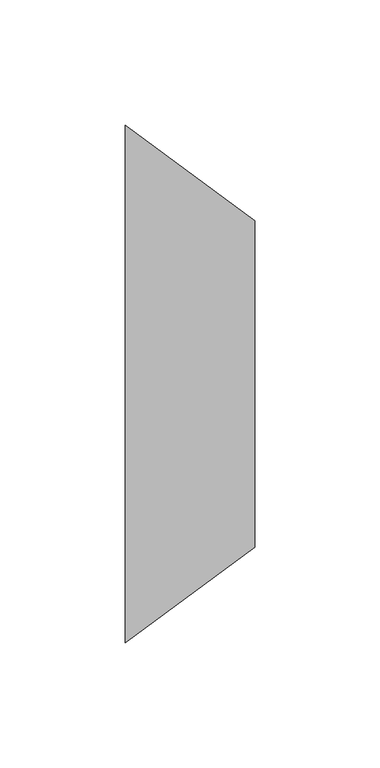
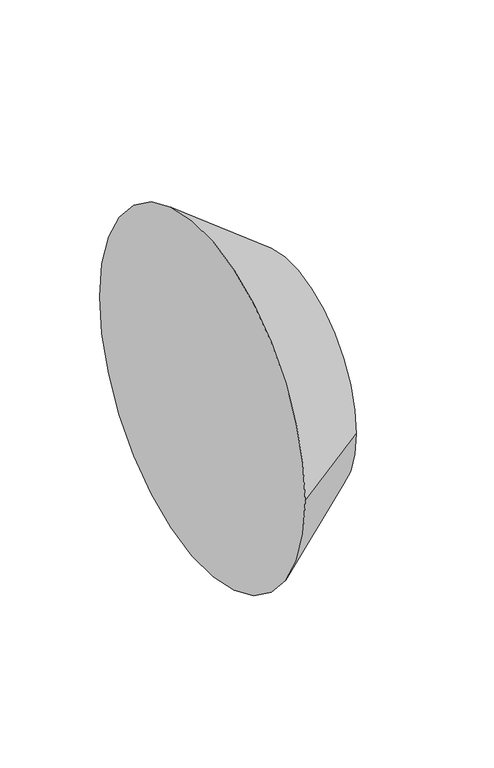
"""IFC4 building model written with IfcOpenShell, lengths in millimetres: pipe fitting geometry, M_Transición - Genérica : Estándar."""

from ifc_helpers import new_model, si_unit, frame, origin, place, context, project, spatial, polyline, circle_curve, source, transform, mapped, element, save
from ifc_brep_helpers import plane_surface, revolved_surface, advanced_brep


def pipe_fitting_73698d31(model_context):
    return source(origin(), model_context, "Body", "AdvancedBrep", [
        advanced_brep(
        [(51.59375, -65.0875, 0.0), (51.59375, 65.0875, 0.0), (0.0, -103.1875, 0.0), (0.0, 103.1875, 0.0)],
        [
            (0, 1, circle_curve(frame((51.59375, 0.0, 0.0), z_axis=(1.0, 0.0, 0.0), x_axis=(0.0, -1.0, 0.0)), 65.0875)),
            (1, 0, circle_curve(frame((51.59375, 0.0, 0.0), z_axis=(1.0, 0.0, 0.0), x_axis=(0.0, 1.0, 0.0)), 65.0875)),
            (2, 3, circle_curve(frame((0.0, 0.0, 0.0), z_axis=(-1.0, 0.0, 0.0), x_axis=(0.0, 1.0, 0.0)), 103.1875)),
            (3, 2, circle_curve(frame((0.0, 0.0, 0.0), z_axis=(-1.0, 0.0, 0.0), x_axis=(0.0, -1.0, 0.0)), 103.1875)),
            (3, 1),
            (0, 2),
        ],
        [
            plane_surface(frame((51.59375, 0.0, 0.0), z_axis=(1.0, 0.0, 0.0), x_axis=(0.0, 0.0, -1.0))),
            plane_surface(frame((0.0, 0.0, 0.0), z_axis=(-1.0, 0.0, 0.0), x_axis=(0.0, 0.0, -1.0))),
            revolved_surface(polyline([(51.59375, -65.08749999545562, 0.0), (0.0, -103.1875, 0.0)]), (139.7330729, 0.0, 0.0), (-1.0, 0.0, 0.0)),
            revolved_surface(polyline([(51.59375, 65.08749999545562, 0.0), (0.0, 103.1875, 0.0)]), (139.7330729, 0.0, 0.0), (-1.0, 0.0, 0.0)),
        ],
        [
            (0, [[1, 2]]),
            (1, [[3, 4]]),
            (2, [[-4, 5, -1, 6]]),
            (3, [[-3, -6, -2, -5]]),
        ],
    ),
    ])


if __name__ == "__main__":
    model = new_model("IFC4")
    model_context = context("Model", 3, world=origin())
    ifc_project = project(units=[si_unit("LENGTHUNIT", "METRE", prefix="MILLI")], contexts=[model_context])
    site = spatial("IfcSite", under=ifc_project)
    building = spatial("IfcBuilding", under=site)
    placement = place(None, origin())
    pipe_fitting_shape = pipe_fitting_73698d31(model_context)
    element("IfcPipeFitting", 1, ObjectType="M_Transición - Genérica : Estándar", at=placement, inside=building, context=model_context, shape_type="MappedRepresentation", body=[
        mapped(pipe_fitting_shape, transform((0.0, 0.0, 0.0), x_axis=(1.0, 0.0, 0.0), y_axis=(0.0, 1.0, 0.0), z_axis=(0.0, 0.0, 1.0))),
    ])
    save(model, "model.ifc")
